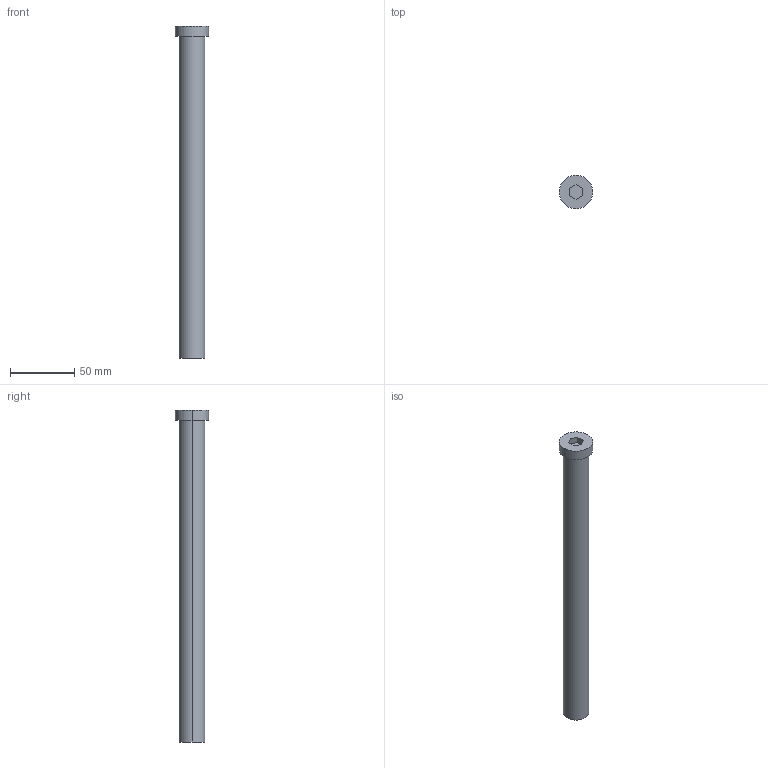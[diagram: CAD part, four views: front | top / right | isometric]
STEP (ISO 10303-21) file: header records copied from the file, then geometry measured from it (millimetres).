
FILE_DESCRIPTION (( 'STEP AP214' ), '1' );
FILE_NAME ('BruyRubio_TGH__20_x_250_-_M-12.STEP', '2019-12-22T23:38:55', ( '' ), ( '' ), 'SwSTEP 2.0', 'SolidWorks 2017', '' );
FILE_SCHEMA (( 'AUTOMOTIVE_DESIGN' ));
Length unit declared in the file: millimetre
Products named in the file (1): BruyRubio_TGH__20_x_250_-_M-12
Bounding box: 26 x 26 x 258 mm (x, y, z)
Volume: 80051.7 mm3; surface area: 20445.9 mm2
Topology: 2 solids, 2 shells, 27 faces, 58 edges, 37 vertices
Faces by surface type: plane 13, cylinder 12, cone 2
Entity records: 1070 total; most frequent: DIRECTION 136, CARTESIAN_POINT 121, ORIENTED_EDGE 112, EDGE_CURVE 56, AXIS2_PLACEMENT_3D 52, VERTEX_POINT 37, EDGE_LOOP 33, VECTOR 32
